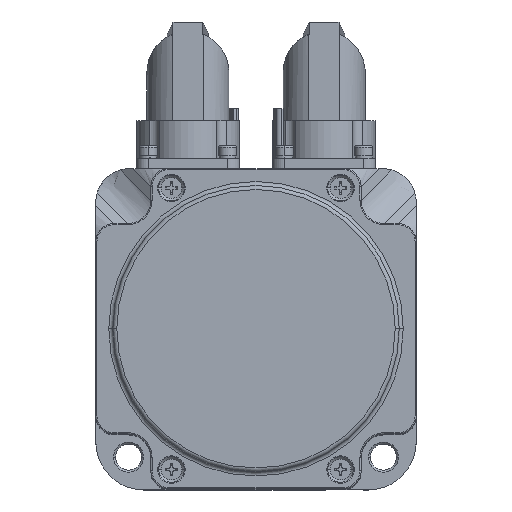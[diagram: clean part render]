
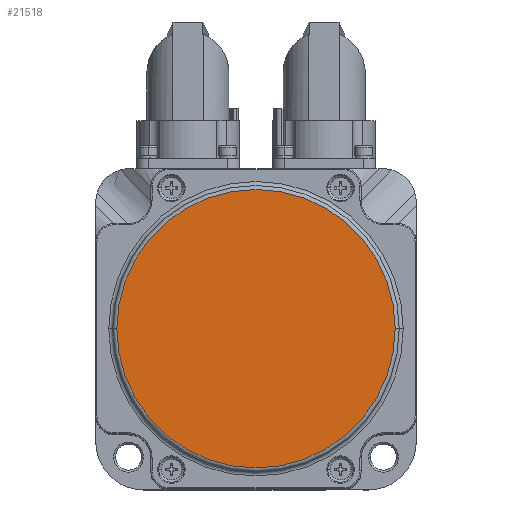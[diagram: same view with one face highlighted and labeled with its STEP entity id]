
A CAD part, top view. The second image highlights one B-rep face of the part: STEP entity #21518.
In plain terms, the highlighted planar face has unit normal (0, 0, 1).
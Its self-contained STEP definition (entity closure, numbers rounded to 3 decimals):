
#3753 = CARTESIAN_POINT ( 'NONE',  ( 0., 0., 6.5 ) ) ;
#3754 = DIRECTION ( 'NONE',  ( 0., 0., 1. ) ) ;
#3755 = DIRECTION ( 'NONE',  ( 1., 0., 0. ) ) ;
#4926 = ORIENTED_EDGE ( 'NONE', *, *, #21143, .T. ) ;
#4927 = ORIENTED_EDGE ( 'NONE', *, *, #22385, .T. ) ;
#9804 = PLANE ( 'NONE',  #43152 ) ;
#9805 = CARTESIAN_POINT ( 'NONE',  ( 0., 0., 6.5 ) ) ;
#9806 = DIRECTION ( 'NONE',  ( 0., 0., 1. ) ) ;
#9808 = DIRECTION ( 'NONE',  ( 1., 0., 0. ) ) ;
#12582 = VERTEX_POINT ( 'NONE', #44916 ) ;
#12698 = VERTEX_POINT ( 'NONE', #44974 ) ;
#15341 = CIRCLE ( 'NONE', #15353, 34.75 ) ;
#15353 = AXIS2_PLACEMENT_3D ( 'NONE', #28706, #28707, #28709 ) ;
#18027 = EDGE_LOOP ( 'NONE', ( #4926, #4927 ) ) ;
#21143 = EDGE_CURVE ( 'NONE', #12582, #12698, #42752, .T. ) ;
#21518 = ADVANCED_FACE ( 'NONE', ( #51898 ), #9804, .T. ) ;
#22385 = EDGE_CURVE ( 'NONE', #12698, #12582, #15341, .T. ) ;
#28706 = CARTESIAN_POINT ( 'NONE',  ( 0., 0., 6.5 ) ) ;
#28707 = DIRECTION ( 'NONE',  ( 0., 0., 1. ) ) ;
#28709 = DIRECTION ( 'NONE',  ( 1., 0., 0. ) ) ;
#42752 = CIRCLE ( 'NONE', #42753, 34.75 ) ;
#42753 = AXIS2_PLACEMENT_3D ( 'NONE', #3753, #3754, #3755 ) ;
#43152 = AXIS2_PLACEMENT_3D ( 'NONE', #9805, #9806, #9808 ) ;
#44916 = CARTESIAN_POINT ( 'NONE',  ( 34.75, 0., 6.5 ) ) ;
#44974 = CARTESIAN_POINT ( 'NONE',  ( -34.75, 0., 6.5 ) ) ;
#51898 = FACE_OUTER_BOUND ( 'NONE', #18027, .T. ) ;
